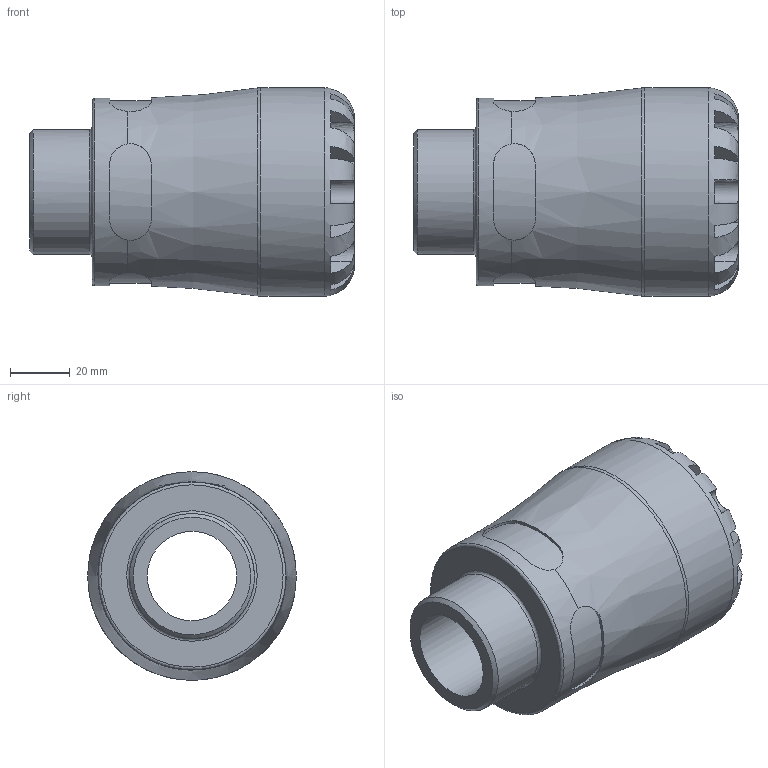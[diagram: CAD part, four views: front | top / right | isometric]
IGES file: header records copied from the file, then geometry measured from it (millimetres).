
Global section: file name: 150200040013; native system: Autodesk Inventor 2019; preprocessor: unknown; author: KIM; date: 20231017.191450; units: millimetre
Bounding box: 109 x 70 x 69.99 mm (x, y, z)
Volume: 207777.6 mm3; surface area: 40364.2 mm2
Topology: 1 solids, 1 shells, 100 faces, 273 edges, 177 vertices
Faces by surface type: bspline 100
